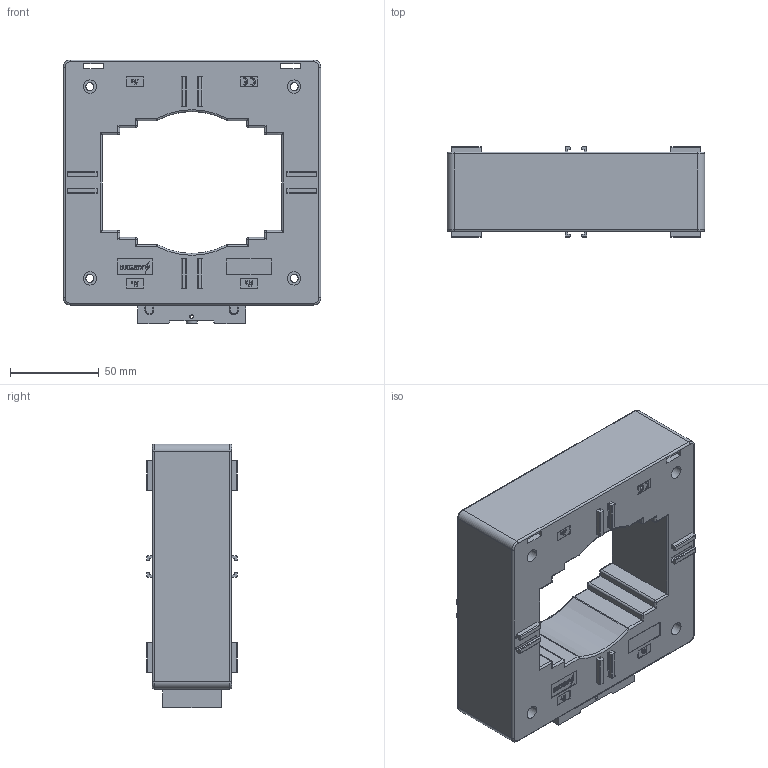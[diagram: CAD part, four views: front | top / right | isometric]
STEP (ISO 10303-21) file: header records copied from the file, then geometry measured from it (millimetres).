
FILE_DESCRIPTION (( 'STEP AP203' ), '1' );
FILE_NAME ('TT-B100.STEP', '2016-12-19T10:14:58', ( '' ), ( '' ), 'SwSTEP 2.0', 'SolidWorks 2015', '' );
FILE_SCHEMA (( 'CONFIG_CONTROL_DESIGN' ));
Products named in the file (1): TT-B100
Bounding box: 145 x 50.8 x 148.7 mm (x, y, z)
Volume: 589972 mm3; surface area: 87229.4 mm2
Topology: 2 solids, 4 shells, 1457 faces, 3728 edges, 2348 vertices
Faces by surface type: plane 839, cylinder 299, bspline 247, sphere 32, cone 28, torus 12
Entity records: 51285 total; most frequent: CARTESIAN_POINT 17799, ORIENTED_EDGE 7392, DIRECTION 5946, EDGE_CURVE 3696, VECTOR 2556, LINE 2556, VERTEX_POINT 2348, AXIS2_PLACEMENT_3D 1695
